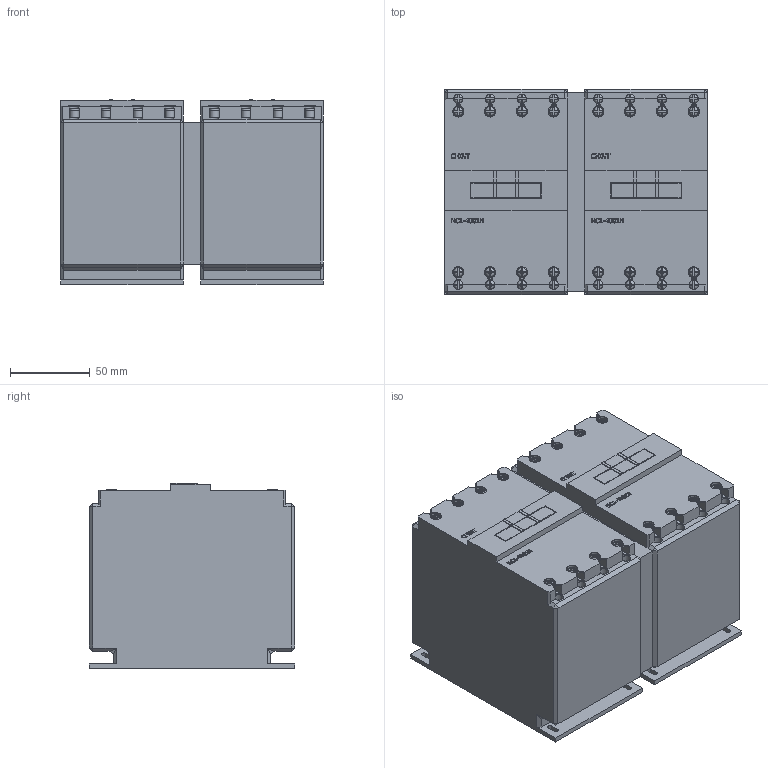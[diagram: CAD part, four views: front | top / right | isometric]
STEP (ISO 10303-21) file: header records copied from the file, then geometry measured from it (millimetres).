
FILE_DESCRIPTION(/* description */ (''),/* implementation_level */ '2;1');
FILE_NAME(/* name */ 'D:\CHINT2\NC1-N\NC1-4001N 230В 50Гц.stp',/* time_stamp */ '2017-11-12T20:41:29+03:00',/* author */ ('RSagdiev'),/* organization */ (''),/* preprocessor_version */ 'ST-DEVELOPER v16.5',/* originating_system */ 'Autodesk Inventor 2017',/* authorisation */ '');
FILE_SCHEMA (('AUTOMOTIVE_DESIGN { 1 0 10303 214 3 1 1 }'));
Products named in the file (1): NC1-4001N 230В 50Гц
Bounding box: 165 x 129 x 116.5 mm (x, y, z)
Volume: 2299087.9 mm3; surface area: 136563.7 mm2
Topology: 43 solids, 43 shells, 2976 faces, 7996 edges, 5264 vertices
Faces by surface type: plane 2098, bspline 766, cylinder 96, torus 16
Full cylindrical faces by diameter (mm): 5.8 x16, 6 x32
Entity records: 99825 total; most frequent: CARTESIAN_POINT 30481, ORIENTED_EDGE 15836, DIRECTION 11312, EDGE_CURVE 7918, LINE 5478, VECTOR 5478, VERTEX_POINT 5250, EDGE_LOOP 3246
